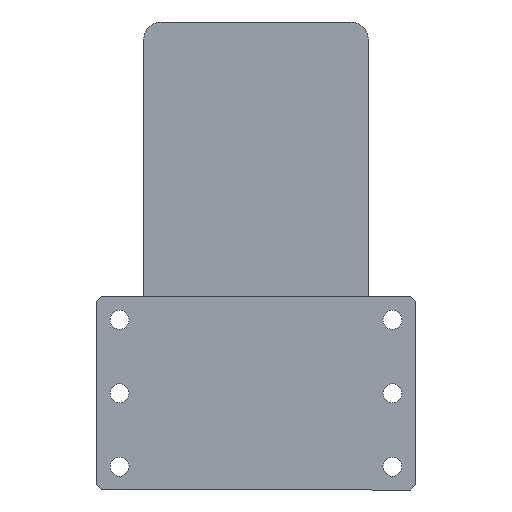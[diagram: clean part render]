
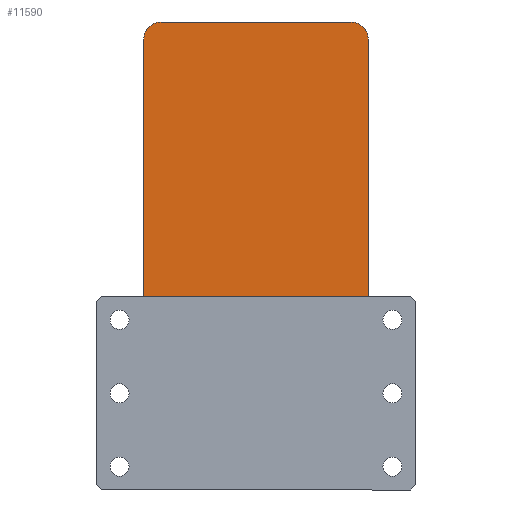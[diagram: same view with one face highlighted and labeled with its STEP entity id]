
A CAD part, left-side view. The second image highlights one B-rep face of the part: STEP entity #11590.
In plain terms, the highlighted planar face has unit normal (-1, 0, 0) as drawn and (0, 0, 1) by its records, which use the part's own axes.
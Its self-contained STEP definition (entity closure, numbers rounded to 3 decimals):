
#323 = CARTESIAN_POINT ( 'NONE',  ( -65., -125., 105. ) ) ;
#356 = CARTESIAN_POINT ( 'NONE',  ( -65., 125., 105. ) ) ;
#899 = EDGE_CURVE ( 'NONE', #6758, #2993, #3101, .T. ) ;
#1074 = DIRECTION ( 'NONE',  ( 0., -1., 0. ) ) ;
#1166 = EDGE_LOOP ( 'NONE', ( #6185, #1927, #10556, #8141, #5299, #10664, #7221, #8129 ) ) ;
#1170 = CARTESIAN_POINT ( 'NONE',  ( -65., 135., 105. ) ) ;
#1199 = VERTEX_POINT ( 'NONE', #4976 ) ;
#1641 = CIRCLE ( 'NONE', #4705, 10. ) ;
#1652 = CIRCLE ( 'NONE', #3257, 10. ) ;
#1728 = CIRCLE ( 'NONE', #3982, 10. ) ;
#1759 = FACE_OUTER_BOUND ( 'NONE', #1166, .T. ) ;
#1868 = EDGE_CURVE ( 'NONE', #10312, #2068, #1652, .T. ) ;
#1884 = EDGE_CURVE ( 'NONE', #1199, #4791, #1728, .T. ) ;
#1886 = EDGE_CURVE ( 'NONE', #2993, #10790, #1641, .T. ) ;
#1927 = ORIENTED_EDGE ( 'NONE', *, *, #1868, .T. ) ;
#2068 = VERTEX_POINT ( 'NONE', #6358 ) ;
#2285 = DIRECTION ( 'NONE',  ( 0., 1., 0. ) ) ;
#2873 = CIRCLE ( 'NONE', #10315, 10. ) ;
#2992 = AXIS2_PLACEMENT_3D ( 'NONE', #11260, #11135, #11122 ) ;
#2993 = VERTEX_POINT ( 'NONE', #323 ) ;
#3080 = VECTOR ( 'NONE', #1074, 1000. ) ;
#3101 = LINE ( 'NONE', #1170, #3080 ) ;
#3126 = CARTESIAN_POINT ( 'NONE',  ( -65., 135., 105. ) ) ;
#3210 = VECTOR ( 'NONE', #5156, 1000. ) ;
#3257 = AXIS2_PLACEMENT_3D ( 'NONE', #8178, #8204, #8192 ) ;
#3266 = LINE ( 'NONE', #5131, #3210 ) ;
#3776 = DIRECTION ( 'NONE',  ( 1., 0., 0. ) ) ;
#3780 = DIRECTION ( 'NONE',  ( 0., 0., 1. ) ) ;
#3794 = CARTESIAN_POINT ( 'NONE',  ( -55., 125., 105. ) ) ;
#3982 = AXIS2_PLACEMENT_3D ( 'NONE', #8288, #8271, #7657 ) ;
#4035 = CARTESIAN_POINT ( 'NONE',  ( -55., 135., 105. ) ) ;
#4705 = AXIS2_PLACEMENT_3D ( 'NONE', #7409, #7389, #7379 ) ;
#4791 = VERTEX_POINT ( 'NONE', #10832 ) ;
#4976 = CARTESIAN_POINT ( 'NONE',  ( 65., 125., 105. ) ) ;
#5045 = VECTOR ( 'NONE', #11208, 1000. ) ;
#5131 = CARTESIAN_POINT ( 'NONE',  ( -65., -135., 105. ) ) ;
#5134 = LINE ( 'NONE', #3126, #5045 ) ;
#5156 = DIRECTION ( 'NONE',  ( 1., 0., 0. ) ) ;
#5210 = VECTOR ( 'NONE', #2285, 1000. ) ;
#5250 = LINE ( 'NONE', #9388, #5210 ) ;
#5299 = ORIENTED_EDGE ( 'NONE', *, *, #9698, .T. ) ;
#5503 = EDGE_CURVE ( 'NONE', #10790, #10312, #3266, .T. ) ;
#5659 = EDGE_CURVE ( 'NONE', #11448, #6758, #2873, .T. ) ;
#6185 = ORIENTED_EDGE ( 'NONE', *, *, #5503, .T. ) ;
#6358 = CARTESIAN_POINT ( 'NONE',  ( 65., -125., 105. ) ) ;
#6758 = VERTEX_POINT ( 'NONE', #356 ) ;
#7221 = ORIENTED_EDGE ( 'NONE', *, *, #899, .T. ) ;
#7379 = DIRECTION ( 'NONE',  ( 1., 0., 0. ) ) ;
#7389 = DIRECTION ( 'NONE',  ( 0., 0., 1. ) ) ;
#7409 = CARTESIAN_POINT ( 'NONE',  ( -55., -125., 105. ) ) ;
#7657 = DIRECTION ( 'NONE',  ( 1., 0., 0. ) ) ;
#8129 = ORIENTED_EDGE ( 'NONE', *, *, #1886, .T. ) ;
#8141 = ORIENTED_EDGE ( 'NONE', *, *, #1884, .T. ) ;
#8178 = CARTESIAN_POINT ( 'NONE',  ( 55., -125., 105. ) ) ;
#8192 = DIRECTION ( 'NONE',  ( 1., 0., 0. ) ) ;
#8204 = DIRECTION ( 'NONE',  ( 0., 0., 1. ) ) ;
#8271 = DIRECTION ( 'NONE',  ( 0., 0., 1. ) ) ;
#8288 = CARTESIAN_POINT ( 'NONE',  ( 55., 125., 105. ) ) ;
#9388 = CARTESIAN_POINT ( 'NONE',  ( 65., 135., 105. ) ) ;
#9639 = EDGE_CURVE ( 'NONE', #2068, #1199, #5250, .T. ) ;
#9698 = EDGE_CURVE ( 'NONE', #4791, #11448, #5134, .T. ) ;
#9720 = CARTESIAN_POINT ( 'NONE',  ( 55., -135., 105. ) ) ;
#10230 = CARTESIAN_POINT ( 'NONE',  ( -55., -135., 105. ) ) ;
#10312 = VERTEX_POINT ( 'NONE', #9720 ) ;
#10315 = AXIS2_PLACEMENT_3D ( 'NONE', #3794, #3780, #3776 ) ;
#10556 = ORIENTED_EDGE ( 'NONE', *, *, #9639, .T. ) ;
#10664 = ORIENTED_EDGE ( 'NONE', *, *, #5659, .T. ) ;
#10790 = VERTEX_POINT ( 'NONE', #10230 ) ;
#10832 = CARTESIAN_POINT ( 'NONE',  ( 55., 135., 105. ) ) ;
#11122 = DIRECTION ( 'NONE',  ( 1., 0., 0. ) ) ;
#11135 = DIRECTION ( 'NONE',  ( 0., 0., 1. ) ) ;
#11204 = PLANE ( 'NONE',  #2992 ) ;
#11208 = DIRECTION ( 'NONE',  ( -1., 0., 0. ) ) ;
#11260 = CARTESIAN_POINT ( 'NONE',  ( 0., 0., 105. ) ) ;
#11448 = VERTEX_POINT ( 'NONE', #4035 ) ;
#11590 = ADVANCED_FACE ( 'NONE', ( #1759 ), #11204, .T. ) ;
